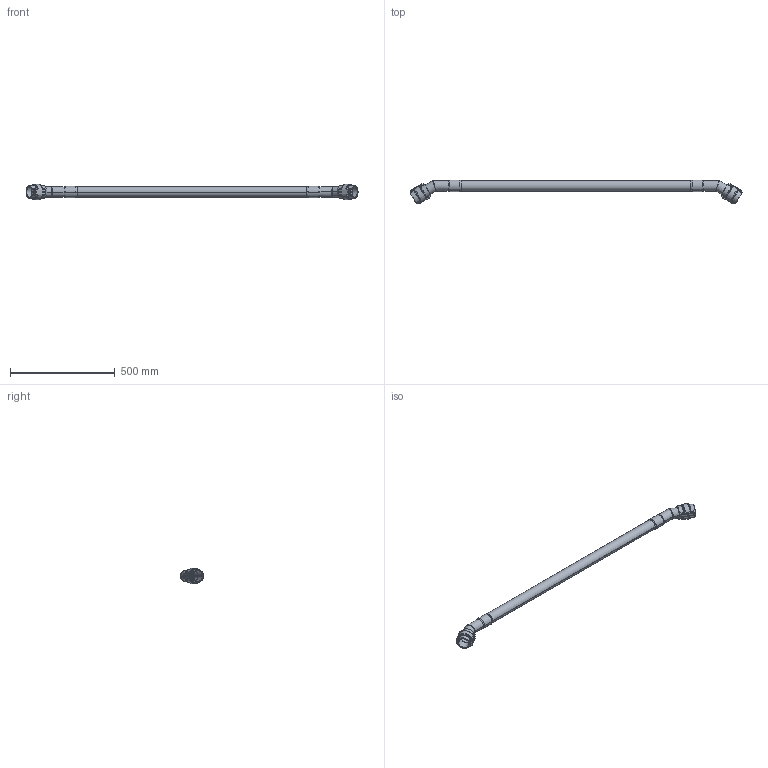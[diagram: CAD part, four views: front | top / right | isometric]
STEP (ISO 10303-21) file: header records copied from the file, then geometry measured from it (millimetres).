
FILE_DESCRIPTION((''),'2;1');
FILE_NAME('2015515599_ASM','2017-05-16T',('Administrator'),(''),'PRO/ENGINEER BY PARAMETRIC TECHNOLOGY CORPORATION, 2009360','PRO/ENGINEER BY PARAMETRIC TECHNOLOGY CORPORATION, 2009360','');
FILE_SCHEMA(('AUTOMOTIVE_DESIGN_CC2 { 1 2 10303 214 -1 1 5 2 }'));
Length unit declared in the file: millimetre
Products named in the file (5): 2015515500; 201550020001; 201550020000; 2015500200_ASM; 2015515599_ASM
Assembly tree (5 placements, depth 3):
  2015515599_ASM
    2015515500
    2015500200_ASM  x2
      201550020001
      201550020000
Bounding box: 1582.86 x 113.65 x 74.3 mm (x, y, z)
Volume: 649350.4 mm3; surface area: 540533.4 mm2
Topology: 5 solids, 5 shells, 470 faces, 1172 edges, 712 vertices
Faces by surface type: cylinder 204, torus 104, plane 74, bspline 64, sphere 16, cone 8
Entity records: 11567 total; most frequent: CARTESIAN_POINT 3623, ORIENTED_EDGE 1264, DIRECTION 1240, PRESENTATION_STYLE_ASSIGNMENT 635, STYLED_ITEM 635, CURVE_STYLE 632, EDGE_CURVE 632, AXIS2_PLACEMENT_3D 518
